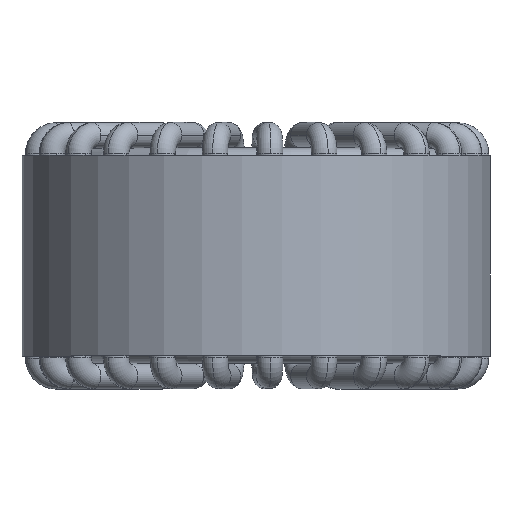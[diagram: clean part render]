
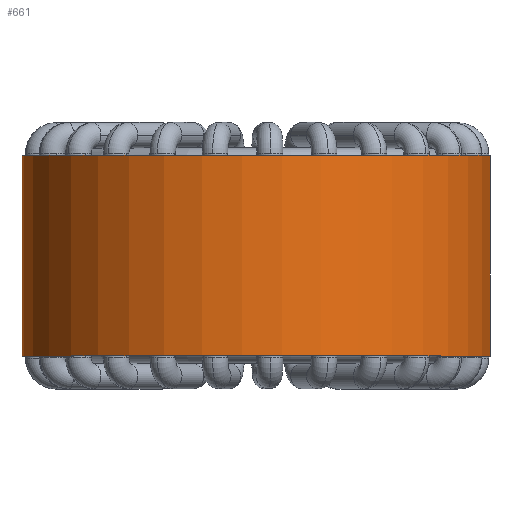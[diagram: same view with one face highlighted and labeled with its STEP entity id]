
A CAD part, top view. The second image highlights one B-rep face of the part: STEP entity #661.
In plain terms, the highlighted cylindrical face has radius 12.845 mm (diameter 25.69 mm), a partial arc.
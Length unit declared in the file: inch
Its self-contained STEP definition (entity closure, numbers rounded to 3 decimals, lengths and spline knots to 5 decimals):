
#441 = VERTEX_POINT ( 'NONE', #3385 ) ;
#550 = ORIENTED_EDGE ( 'NONE', *, *, #4585, .F. ) ;
#661 = ADVANCED_FACE ( 'NONE', ( #4164 ), #1692, .T. ) ;
#1085 = ORIENTED_EDGE ( 'NONE', *, *, #2361, .T. ) ;
#1692 = CYLINDRICAL_SURFACE ( 'NONE', #11528, 0.50571 ) ;
#2001 = CARTESIAN_POINT ( 'NONE',  ( 0.36825, 0.21654, -0.3466 ) ) ;
#2361 = EDGE_CURVE ( 'NONE', #7220, #441, #5137, .T. ) ;
#3385 = CARTESIAN_POINT ( 'NONE',  ( 0.36825, -0.21654, -0.3466 ) ) ;
#3526 = VECTOR ( 'NONE', #10301, 39.37008 ) ;
#3751 = EDGE_LOOP ( 'NONE', ( #1085, #8158, #550, #10248 ) ) ;
#4164 = FACE_OUTER_BOUND ( 'NONE', #3751, .T. ) ;
#4585 = EDGE_CURVE ( 'NONE', #5945, #10125, #12430, .T. ) ;
#4881 = VECTOR ( 'NONE', #12006, 39.37008 ) ;
#5137 = CIRCLE ( 'NONE', #15339, 0.50571 ) ;
#5805 = CARTESIAN_POINT ( 'NONE',  ( -0.32254, -0.21654, -0.3895 ) ) ;
#5945 = VERTEX_POINT ( 'NONE', #14821 ) ;
#6262 = AXIS2_PLACEMENT_3D ( 'NONE', #13196, #13676, #12195 ) ;
#6316 = CARTESIAN_POINT ( 'NONE',  ( -0.32254, 0.21654, -0.3895 ) ) ;
#6367 = LINE ( 'NONE', #7118, #3526 ) ;
#6576 = LINE ( 'NONE', #6316, #4881 ) ;
#7118 = CARTESIAN_POINT ( 'NONE',  ( 0.36825, 0.21654, -0.3466 ) ) ;
#7220 = VERTEX_POINT ( 'NONE', #5805 ) ;
#8158 = ORIENTED_EDGE ( 'NONE', *, *, #9516, .F. ) ;
#9005 = CARTESIAN_POINT ( 'NONE',  ( 0., -0.21654, 0. ) ) ;
#9121 = EDGE_CURVE ( 'NONE', #5945, #7220, #6576, .T. ) ;
#9163 = DIRECTION ( 'NONE',  ( 0., -1., 0. ) ) ;
#9516 = EDGE_CURVE ( 'NONE', #10125, #441, #6367, .T. ) ;
#10125 = VERTEX_POINT ( 'NONE', #2001 ) ;
#10248 = ORIENTED_EDGE ( 'NONE', *, *, #9121, .T. ) ;
#10301 = DIRECTION ( 'NONE',  ( 0., -1., 0. ) ) ;
#10965 = DIRECTION ( 'NONE',  ( 0., 0., 1. ) ) ;
#11528 = AXIS2_PLACEMENT_3D ( 'NONE', #13354, #9163, #15128 ) ;
#12006 = DIRECTION ( 'NONE',  ( 0., -1., 0. ) ) ;
#12195 = DIRECTION ( 'NONE',  ( 0., 0., 1. ) ) ;
#12430 = CIRCLE ( 'NONE', #6262, 0.50571 ) ;
#13196 = CARTESIAN_POINT ( 'NONE',  ( 0., 0.21654, 0. ) ) ;
#13219 = DIRECTION ( 'NONE',  ( 0., 1., 0. ) ) ;
#13354 = CARTESIAN_POINT ( 'NONE',  ( 0., 0.21654, 0. ) ) ;
#13676 = DIRECTION ( 'NONE',  ( 0., 1., 0. ) ) ;
#14821 = CARTESIAN_POINT ( 'NONE',  ( -0.32254, 0.21654, -0.3895 ) ) ;
#15128 = DIRECTION ( 'NONE',  ( 0., 0., -1. ) ) ;
#15339 = AXIS2_PLACEMENT_3D ( 'NONE', #9005, #13219, #10965 ) ;
